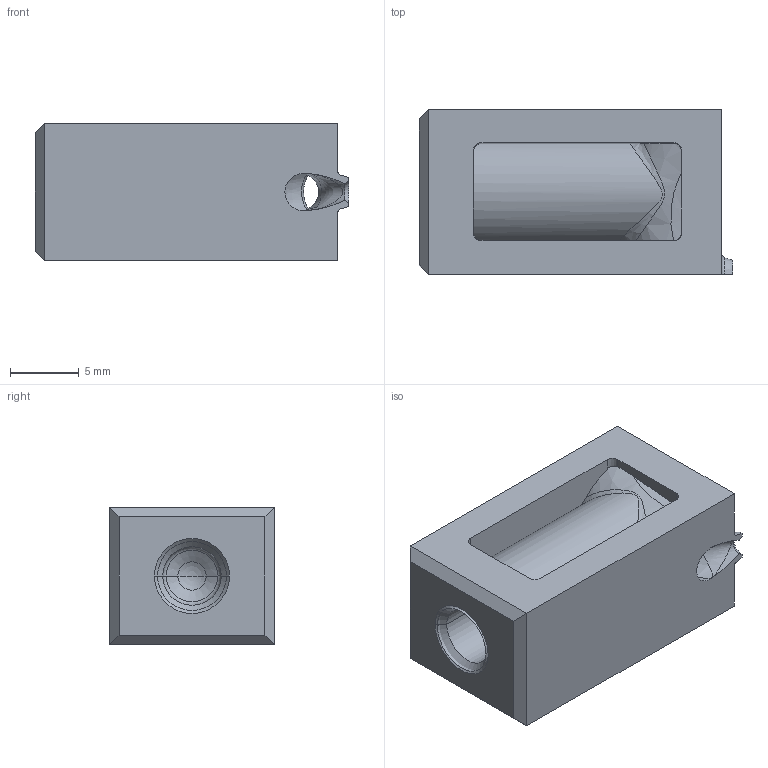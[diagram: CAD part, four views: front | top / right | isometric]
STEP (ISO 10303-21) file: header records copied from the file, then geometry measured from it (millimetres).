
FILE_DESCRIPTION((''),'2;1');
FILE_NAME('TGS12-12-S2','2004-03-24T',('tmeister'),(''),'PRO/ENGINEER BY PARAMETRIC TECHNOLOGY CORPORATION, 2002270','PRO/ENGINEER BY PARAMETRIC TECHNOLOGY CORPORATION, 2002270','');
FILE_SCHEMA(('CONFIG_CONTROL_DESIGN'));
Length unit declared in the file: millimetre
Products named in the file (1): TGS12-12-S2
Bounding box: 22.8 x 12 x 10 mm (x, y, z)
Volume: 1997.5 mm3; surface area: 1877.2 mm2
Topology: 1 solids, 2 shells, 64 faces, 234 edges, 171 vertices
Faces by surface type: plane 21, bspline 14, cone 14, cylinder 9, sphere 3, torus 3
Entity records: 4820 total; most frequent: CARTESIAN_POINT 3140, ORIENTED_EDGE 318, DIRECTION 277, EDGE_CURVE 161, VERTEX_POINT 102, B_SPLINE_CURVE_WITH_KNOTS 98, AXIS2_PLACEMENT_3D 95, VECTOR 87
